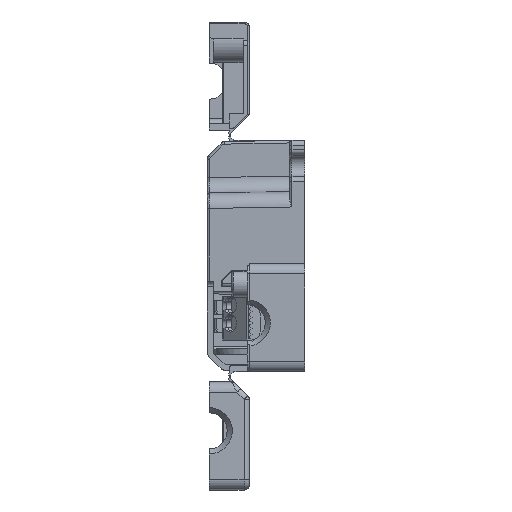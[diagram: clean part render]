
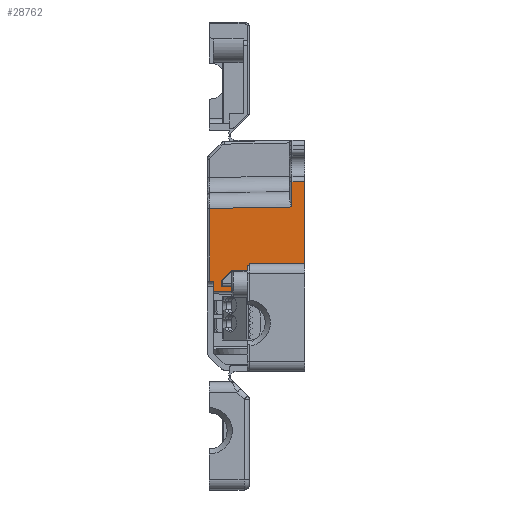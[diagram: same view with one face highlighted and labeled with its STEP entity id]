
A CAD part, left-side view. The second image highlights one B-rep face of the part: STEP entity #28762.
In plain terms, the highlighted planar face has unit normal (-1, 0.018, 0).
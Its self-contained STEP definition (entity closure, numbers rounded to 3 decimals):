
#1058=LINE('',#44500,#3994);
#1077=LINE('',#44575,#4013);
#1083=LINE('',#44589,#4019);
#1084=LINE('',#44590,#4020);
#1085=LINE('',#44591,#4021);
#1086=LINE('',#44593,#4022);
#1087=LINE('',#44595,#4023);
#1088=LINE('',#44597,#4024);
#1089=LINE('',#44599,#4025);
#1090=LINE('',#44601,#4026);
#1091=LINE('',#44605,#4027);
#1092=LINE('',#44609,#4028);
#1093=LINE('',#44611,#4029);
#1094=LINE('',#44615,#4030);
#1095=LINE('',#44619,#4031);
#1096=LINE('',#44621,#4032);
#1097=LINE('',#44625,#4033);
#1098=LINE('',#44629,#4034);
#1099=LINE('',#44631,#4035);
#1100=LINE('',#44632,#4036);
#3994=VECTOR('',#34015,1000.);
#4013=VECTOR('',#34058,1000.);
#4019=VECTOR('',#34070,1000.);
#4020=VECTOR('',#34071,1000.);
#4021=VECTOR('',#34072,1000.);
#4022=VECTOR('',#34073,1000.);
#4023=VECTOR('',#34074,1000.);
#4024=VECTOR('',#34075,1000.);
#4025=VECTOR('',#34076,1000.);
#4026=VECTOR('',#34077,1000.);
#4027=VECTOR('',#34080,1000.);
#4028=VECTOR('',#34083,1000.);
#4029=VECTOR('',#34084,1000.);
#4030=VECTOR('',#34087,1000.);
#4031=VECTOR('',#34090,1000.);
#4032=VECTOR('',#34091,1000.);
#4033=VECTOR('',#34094,1000.);
#4034=VECTOR('',#34097,1000.);
#4035=VECTOR('',#34098,1000.);
#4036=VECTOR('',#34099,1000.);
#6692=PLANE('',#30599);
#7951=FACE_OUTER_BOUND('',#9594,.T.);
#9594=EDGE_LOOP('',(#20481,#20482,#20483,#20484,#20485,#20486,#20487,#20488,
#20489,#20490,#20491,#20492,#20493,#20494,#20495,#20496,#20497,#20498,#20499,
#20500,#20501,#20502,#20503,#20504,#20505,#20506));
#11292=CIRCLE('',#30600,0.2);
#11293=CIRCLE('',#30601,0.2);
#11294=CIRCLE('',#30602,0.1);
#11295=CIRCLE('',#30603,0.1);
#11296=CIRCLE('',#30604,0.2);
#11297=CIRCLE('',#30605,0.2);
#12525=VERTEX_POINT('',#44498);
#12526=VERTEX_POINT('',#44499);
#12549=VERTEX_POINT('',#44573);
#12550=VERTEX_POINT('',#44574);
#12554=VERTEX_POINT('',#44587);
#12555=VERTEX_POINT('',#44588);
#12556=VERTEX_POINT('',#44592);
#12557=VERTEX_POINT('',#44594);
#12558=VERTEX_POINT('',#44596);
#12559=VERTEX_POINT('',#44598);
#12560=VERTEX_POINT('',#44600);
#12561=VERTEX_POINT('',#44602);
#12562=VERTEX_POINT('',#44604);
#12563=VERTEX_POINT('',#44606);
#12564=VERTEX_POINT('',#44608);
#12565=VERTEX_POINT('',#44610);
#12566=VERTEX_POINT('',#44612);
#12567=VERTEX_POINT('',#44614);
#12568=VERTEX_POINT('',#44616);
#12569=VERTEX_POINT('',#44618);
#12570=VERTEX_POINT('',#44620);
#12571=VERTEX_POINT('',#44622);
#12572=VERTEX_POINT('',#44624);
#12573=VERTEX_POINT('',#44626);
#12574=VERTEX_POINT('',#44628);
#12575=VERTEX_POINT('',#44630);
#15559=EDGE_CURVE('',#12525,#12526,#1058,.T.);
#15587=EDGE_CURVE('',#12549,#12550,#1077,.T.);
#15594=EDGE_CURVE('',#12554,#12555,#1083,.T.);
#15595=EDGE_CURVE('',#12555,#12549,#1084,.T.);
#15596=EDGE_CURVE('',#12525,#12550,#1085,.T.);
#15597=EDGE_CURVE('',#12526,#12556,#1086,.T.);
#15598=EDGE_CURVE('',#12556,#12557,#1087,.T.);
#15599=EDGE_CURVE('',#12557,#12558,#1088,.T.);
#15600=EDGE_CURVE('',#12559,#12558,#1089,.T.);
#15601=EDGE_CURVE('',#12559,#12560,#1090,.T.);
#15602=EDGE_CURVE('',#12560,#12561,#11292,.T.);
#15603=EDGE_CURVE('',#12561,#12562,#1091,.T.);
#15604=EDGE_CURVE('',#12562,#12563,#11293,.T.);
#15605=EDGE_CURVE('',#12563,#12564,#1092,.T.);
#15606=EDGE_CURVE('',#12565,#12564,#1093,.T.);
#15607=EDGE_CURVE('',#12565,#12566,#11294,.T.);
#15608=EDGE_CURVE('',#12567,#12566,#1094,.T.);
#15609=EDGE_CURVE('',#12567,#12568,#11295,.T.);
#15610=EDGE_CURVE('',#12569,#12568,#1095,.T.);
#15611=EDGE_CURVE('',#12569,#12570,#1096,.T.);
#15612=EDGE_CURVE('',#12570,#12571,#11296,.T.);
#15613=EDGE_CURVE('',#12571,#12572,#1097,.T.);
#15614=EDGE_CURVE('',#12572,#12573,#11297,.T.);
#15615=EDGE_CURVE('',#12574,#12573,#1098,.T.);
#15616=EDGE_CURVE('',#12575,#12574,#1099,.T.);
#15617=EDGE_CURVE('',#12554,#12575,#1100,.T.);
#20481=ORIENTED_EDGE('',*,*,#15594,.T.);
#20482=ORIENTED_EDGE('',*,*,#15595,.T.);
#20483=ORIENTED_EDGE('',*,*,#15587,.T.);
#20484=ORIENTED_EDGE('',*,*,#15596,.F.);
#20485=ORIENTED_EDGE('',*,*,#15559,.T.);
#20486=ORIENTED_EDGE('',*,*,#15597,.T.);
#20487=ORIENTED_EDGE('',*,*,#15598,.T.);
#20488=ORIENTED_EDGE('',*,*,#15599,.T.);
#20489=ORIENTED_EDGE('',*,*,#15600,.F.);
#20490=ORIENTED_EDGE('',*,*,#15601,.T.);
#20491=ORIENTED_EDGE('',*,*,#15602,.T.);
#20492=ORIENTED_EDGE('',*,*,#15603,.T.);
#20493=ORIENTED_EDGE('',*,*,#15604,.T.);
#20494=ORIENTED_EDGE('',*,*,#15605,.T.);
#20495=ORIENTED_EDGE('',*,*,#15606,.F.);
#20496=ORIENTED_EDGE('',*,*,#15607,.T.);
#20497=ORIENTED_EDGE('',*,*,#15608,.F.);
#20498=ORIENTED_EDGE('',*,*,#15609,.T.);
#20499=ORIENTED_EDGE('',*,*,#15610,.F.);
#20500=ORIENTED_EDGE('',*,*,#15611,.T.);
#20501=ORIENTED_EDGE('',*,*,#15612,.T.);
#20502=ORIENTED_EDGE('',*,*,#15613,.T.);
#20503=ORIENTED_EDGE('',*,*,#15614,.T.);
#20504=ORIENTED_EDGE('',*,*,#15615,.F.);
#20505=ORIENTED_EDGE('',*,*,#15616,.F.);
#20506=ORIENTED_EDGE('',*,*,#15617,.F.);
#28762=ADVANCED_FACE('',(#7951),#6692,.T.);
#30599=AXIS2_PLACEMENT_3D('',#44586,#34068,#34069);
#30600=AXIS2_PLACEMENT_3D('',#44603,#34078,#34079);
#30601=AXIS2_PLACEMENT_3D('',#44607,#34081,#34082);
#30602=AXIS2_PLACEMENT_3D('',#44613,#34085,#34086);
#30603=AXIS2_PLACEMENT_3D('',#44617,#34088,#34089);
#30604=AXIS2_PLACEMENT_3D('',#44623,#34092,#34093);
#30605=AXIS2_PLACEMENT_3D('',#44627,#34095,#34096);
#34015=DIRECTION('',(-0.017,-1.,-0.009));
#34058=DIRECTION('',(-0.017,-1.,-0.004));
#34068=DIRECTION('center_axis',(-1.,0.017,0.));
#34069=DIRECTION('ref_axis',(0.,0.,1.));
#34070=DIRECTION('',(0.017,1.,-0.017));
#34071=DIRECTION('',(0.,0.,-1.));
#34072=DIRECTION('',(0.,0.,1.));
#34073=DIRECTION('',(0.,0.,-1.));
#34074=DIRECTION('',(-0.017,-1.,0.));
#34075=DIRECTION('',(0.,0.,1.));
#34076=DIRECTION('',(0.,0.,-1.));
#34077=DIRECTION('',(0.,0.,1.));
#34078=DIRECTION('center_axis',(1.,-0.017,0.));
#34079=DIRECTION('ref_axis',(0.005,0.259,0.966));
#34080=DIRECTION('',(-0.017,-0.966,0.259));
#34081=DIRECTION('center_axis',(-1.,0.017,0.));
#34082=DIRECTION('ref_axis',(-0.017,-1.,0.));
#34083=DIRECTION('',(0.,0.,1.));
#34084=DIRECTION('',(-0.017,-1.,-0.004));
#34085=DIRECTION('center_axis',(1.,-0.017,0.));
#34086=DIRECTION('ref_axis',(0.017,1.,0.));
#34087=DIRECTION('',(0.,0.,-1.));
#34088=DIRECTION('center_axis',(1.,-0.017,0.));
#34089=DIRECTION('ref_axis',(0.,0.004,1.));
#34090=DIRECTION('',(0.017,1.,-0.004));
#34091=DIRECTION('',(0.,0.,1.));
#34092=DIRECTION('center_axis',(1.,-0.017,0.));
#34093=DIRECTION('ref_axis',(0.005,0.259,0.966));
#34094=DIRECTION('',(-0.017,-0.966,0.259));
#34095=DIRECTION('center_axis',(-1.,0.017,0.));
#34096=DIRECTION('ref_axis',(-0.017,-1.,0.));
#34097=DIRECTION('',(0.,0.,-1.));
#34098=DIRECTION('',(-0.017,-1.,0.));
#34099=DIRECTION('',(0.,0.,1.));
#44498=CARTESIAN_POINT('',(-46.891,17.7,-4.398));
#44499=CARTESIAN_POINT('',(-47.099,5.803,-4.502));
#44500=CARTESIAN_POINT('',(-47.081,6.822,-4.493));
#44573=CARTESIAN_POINT('',(-46.877,18.509,-2.439));
#44574=CARTESIAN_POINT('',(-46.891,17.7,-2.442));
#44575=CARTESIAN_POINT('',(-47.107,5.322,-2.496));
#44586=CARTESIAN_POINT('Origin',(-47.2,0.,-27.361));
#44587=CARTESIAN_POINT('',(-47.156,2.509,12.009));
#44588=CARTESIAN_POINT('',(-46.877,18.509,11.73));
#44589=CARTESIAN_POINT('',(-47.156,2.509,12.009));
#44590=CARTESIAN_POINT('',(-46.877,18.509,11.73));
#44591=CARTESIAN_POINT('',(-46.891,17.7,-4.5));
#44592=CARTESIAN_POINT('',(-47.099,5.803,-15.5));
#44593=CARTESIAN_POINT('',(-47.099,5.803,-22.361));
#44594=CARTESIAN_POINT('',(-47.121,4.5,-15.5));
#44595=CARTESIAN_POINT('',(-47.095,6.,-15.5));
#44596=CARTESIAN_POINT('',(-47.121,4.5,-13.));
#44597=CARTESIAN_POINT('',(-47.121,4.5,-22.361));
#44598=CARTESIAN_POINT('',(-47.121,4.5,-8.));
#44599=CARTESIAN_POINT('',(-47.121,4.5,-8.));
#44600=CARTESIAN_POINT('',(-47.121,4.5,-6.538));
#44601=CARTESIAN_POINT('',(-47.121,4.5,-22.361));
#44602=CARTESIAN_POINT('',(-47.124,4.352,-6.345));
#44603=CARTESIAN_POINT('Origin',(-47.125,4.3,-6.538));
#44604=CARTESIAN_POINT('',(-47.176,1.348,-5.54));
#44605=CARTESIAN_POINT('',(-47.125,4.294,-6.329));
#44606=CARTESIAN_POINT('',(-47.179,1.2,-5.347));
#44607=CARTESIAN_POINT('Origin',(-47.176,1.4,-5.347));
#44608=CARTESIAN_POINT('',(-47.179,1.2,-3.5));
#44609=CARTESIAN_POINT('',(-47.179,1.2,-22.361));
#44610=CARTESIAN_POINT('',(-46.919,16.1,-3.435));
#44611=CARTESIAN_POINT('',(-47.201,-0.082,-3.506));
#44612=CARTESIAN_POINT('',(-46.917,16.2,-3.335));
#44613=CARTESIAN_POINT('Origin',(-46.919,16.1,-3.335));
#44614=CARTESIAN_POINT('',(-46.917,16.2,-2.465));
#44615=CARTESIAN_POINT('',(-46.917,16.2,-2.3));
#44616=CARTESIAN_POINT('',(-46.919,16.1,-2.365));
#44617=CARTESIAN_POINT('Origin',(-46.919,16.1,-2.465));
#44618=CARTESIAN_POINT('',(-47.179,1.2,-2.3));
#44619=CARTESIAN_POINT('',(-47.198,0.088,-2.295));
#44620=CARTESIAN_POINT('',(-47.179,1.2,0.104));
#44621=CARTESIAN_POINT('',(-47.179,1.2,-22.361));
#44622=CARTESIAN_POINT('',(-47.182,1.052,0.297));
#44623=CARTESIAN_POINT('Origin',(-47.183,1.,0.104));
#44624=CARTESIAN_POINT('',(-47.197,0.148,0.539));
#44625=CARTESIAN_POINT('',(-47.1,5.733,-0.958));
#44626=CARTESIAN_POINT('',(-47.2,0.,0.732));
#44627=CARTESIAN_POINT('Origin',(-47.197,0.2,0.732));
#44628=CARTESIAN_POINT('',(-47.2,0.,16.9));
#44629=CARTESIAN_POINT('',(-47.2,0.,16.9));
#44630=CARTESIAN_POINT('',(-47.156,2.509,16.9));
#44631=CARTESIAN_POINT('',(-47.156,2.509,16.9));
#44632=CARTESIAN_POINT('',(-47.156,2.509,12.009));
